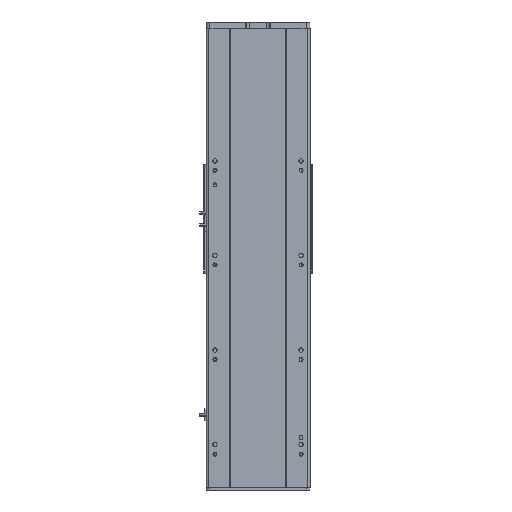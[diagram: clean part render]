
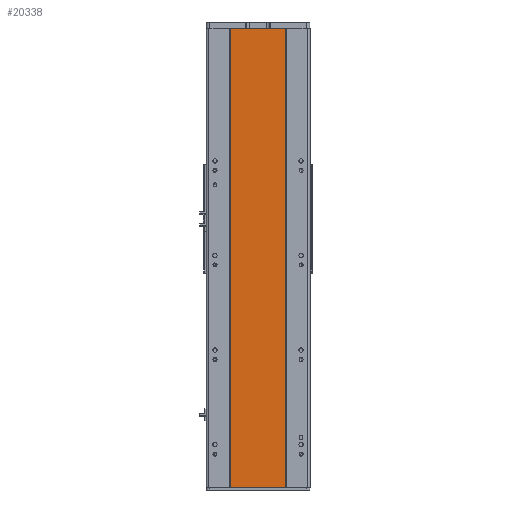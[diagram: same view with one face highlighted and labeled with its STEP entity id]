
A CAD part, front view. The second image highlights one B-rep face of the part: STEP entity #20338.
In plain terms, the highlighted planar face has unit normal (0, -1, 0).
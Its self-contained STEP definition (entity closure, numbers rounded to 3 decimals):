
#2033 = PLANE ( 'NONE',  #18783 ) ;
#2147 = DIRECTION ( 'NONE',  ( -1., 0., 0. ) ) ;
#3824 = VERTEX_POINT ( 'NONE', #5263 ) ;
#5164 = VECTOR ( 'NONE', #17124, 1000. ) ;
#5263 = CARTESIAN_POINT ( 'NONE',  ( 59., 1., 485.5 ) ) ;
#7028 = VERTEX_POINT ( 'NONE', #32068 ) ;
#7194 = CARTESIAN_POINT ( 'NONE',  ( -59., 1., -485.5 ) ) ;
#7371 = DIRECTION ( 'NONE',  ( 0., 0., -1. ) ) ;
#8623 = LINE ( 'NONE', #7194, #13465 ) ;
#10365 = DIRECTION ( 'NONE',  ( 1., 0., 0. ) ) ;
#10447 = LINE ( 'NONE', #29627, #23626 ) ;
#11483 = EDGE_LOOP ( 'NONE', ( #27434, #12633, #17142, #21673 ) ) ;
#12633 = ORIENTED_EDGE ( 'NONE', *, *, #22950, .F. ) ;
#13465 = VECTOR ( 'NONE', #10365, 1000. ) ;
#13924 = EDGE_CURVE ( 'NONE', #16189, #7028, #8623, .T. ) ;
#13940 = CARTESIAN_POINT ( 'NONE',  ( -59., 1., 485.5 ) ) ;
#16189 = VERTEX_POINT ( 'NONE', #34031 ) ;
#16307 = DIRECTION ( 'NONE',  ( 0., 0., -1. ) ) ;
#16483 = EDGE_CURVE ( 'NONE', #16831, #3824, #17026, .T. ) ;
#16705 = LINE ( 'NONE', #23807, #32097 ) ;
#16831 = VERTEX_POINT ( 'NONE', #13940 ) ;
#17026 = LINE ( 'NONE', #25269, #5164 ) ;
#17124 = DIRECTION ( 'NONE',  ( 1., 0., 0. ) ) ;
#17142 = ORIENTED_EDGE ( 'NONE', *, *, #16483, .F. ) ;
#18783 = AXIS2_PLACEMENT_3D ( 'NONE', #33017, #27364, #2147 ) ;
#20338 = ADVANCED_FACE ( 'NONE', ( #33987 ), #2033, .F. ) ;
#21673 = ORIENTED_EDGE ( 'NONE', *, *, #30462, .T. ) ;
#22950 = EDGE_CURVE ( 'NONE', #3824, #7028, #10447, .T. ) ;
#23626 = VECTOR ( 'NONE', #16307, 1000. ) ;
#23807 = CARTESIAN_POINT ( 'NONE',  ( -59., 1., 485.5 ) ) ;
#25269 = CARTESIAN_POINT ( 'NONE',  ( -59., 1., 485.5 ) ) ;
#27364 = DIRECTION ( 'NONE',  ( 0., 1., 0. ) ) ;
#27434 = ORIENTED_EDGE ( 'NONE', *, *, #13924, .T. ) ;
#29627 = CARTESIAN_POINT ( 'NONE',  ( 59., 1., 485.5 ) ) ;
#30462 = EDGE_CURVE ( 'NONE', #16831, #16189, #16705, .T. ) ;
#32068 = CARTESIAN_POINT ( 'NONE',  ( 59., 1., -485.5 ) ) ;
#32097 = VECTOR ( 'NONE', #7371, 1000. ) ;
#33017 = CARTESIAN_POINT ( 'NONE',  ( -59., 1., 485.5 ) ) ;
#33987 = FACE_OUTER_BOUND ( 'NONE', #11483, .T. ) ;
#34031 = CARTESIAN_POINT ( 'NONE',  ( -59., 1., -485.5 ) ) ;
